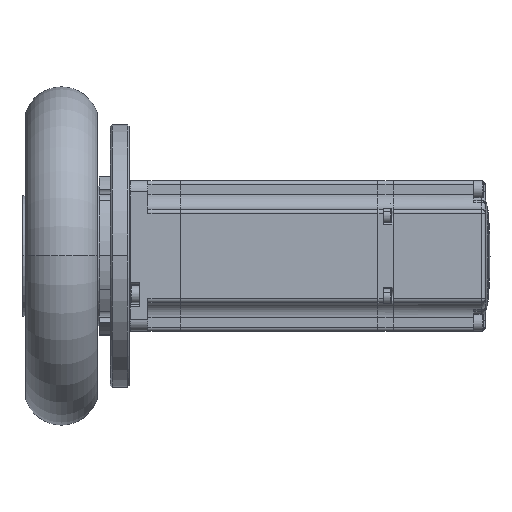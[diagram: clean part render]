
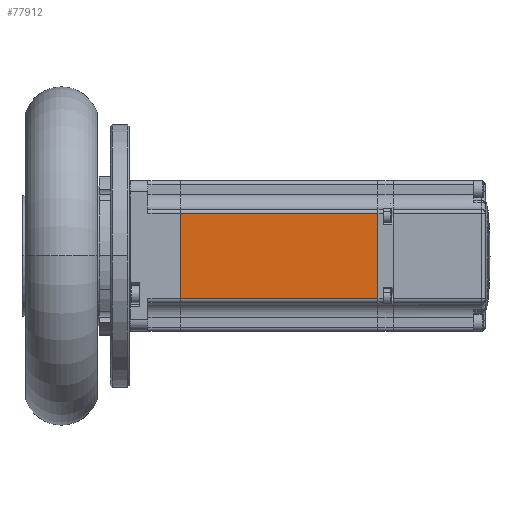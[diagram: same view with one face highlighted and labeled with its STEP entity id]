
A CAD part, top view. The second image highlights one B-rep face of the part: STEP entity #77912.
In plain terms, the highlighted planar face has unit normal (0, 0, 1) as drawn and (0, 1, 0) by its records, which use the part's own axes.
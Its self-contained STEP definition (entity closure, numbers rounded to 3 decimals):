
#74974=DIRECTION('',(-1.,0.,0.));
#74975=VECTOR('',#74974,22.8);
#74976=CARTESIAN_POINT('',(10.209,20.,7.5));
#74977=LINE('',#74976,#74975);
#75408=DIRECTION('',(0.,0.,1.));
#75409=VECTOR('',#75408,52.5);
#75410=CARTESIAN_POINT('',(10.209,20.,-45.));
#75411=LINE('',#75410,#75409);
#75416=DIRECTION('',(-1.,0.,0.));
#75417=VECTOR('',#75416,22.8);
#75418=CARTESIAN_POINT('',(10.209,20.,-45.));
#75419=LINE('',#75418,#75417);
#75424=DIRECTION('',(0.,0.,-1.));
#75425=VECTOR('',#75424,52.5);
#75426=CARTESIAN_POINT('',(-12.591,20.,7.5));
#75427=LINE('',#75426,#75425);
#76884=CARTESIAN_POINT('',(10.209,20.,-45.));
#76886=VERTEX_POINT('',#76884);
#77125=CARTESIAN_POINT('',(-12.591,20.,7.5));
#77126=CARTESIAN_POINT('',(-12.591,20.,-45.));
#77127=VERTEX_POINT('',#77125);
#77128=VERTEX_POINT('',#77126);
#77216=CARTESIAN_POINT('',(10.209,20.,7.5));
#77217=VERTEX_POINT('',#77216);
#77899=CARTESIAN_POINT('',(18.809,20.,-45.5));
#77900=DIRECTION('',(0.,-1.,0.));
#77901=DIRECTION('',(-1.,0.,0.));
#77902=AXIS2_PLACEMENT_3D('',#77899,#77900,#77901);
#77903=PLANE('',#77902);
#77905=ORIENTED_EDGE('',*,*,#77904,.T.);
#77907=ORIENTED_EDGE('',*,*,#77906,.F.);
#77908=ORIENTED_EDGE('',*,*,#77891,.T.);
#77909=ORIENTED_EDGE('',*,*,#77331,.T.);
#77910=EDGE_LOOP('',(#77905,#77907,#77908,#77909));
#77911=FACE_OUTER_BOUND('',#77910,.F.);
#77912=ADVANCED_FACE('',(#77911),#77903,.F.);
#77331=EDGE_CURVE('',#77217,#77127,#74977,.T.);
#77891=EDGE_CURVE('',#76886,#77217,#75411,.T.);
#77904=EDGE_CURVE('',#77127,#77128,#75427,.T.);
#77906=EDGE_CURVE('',#76886,#77128,#75419,.T.);
